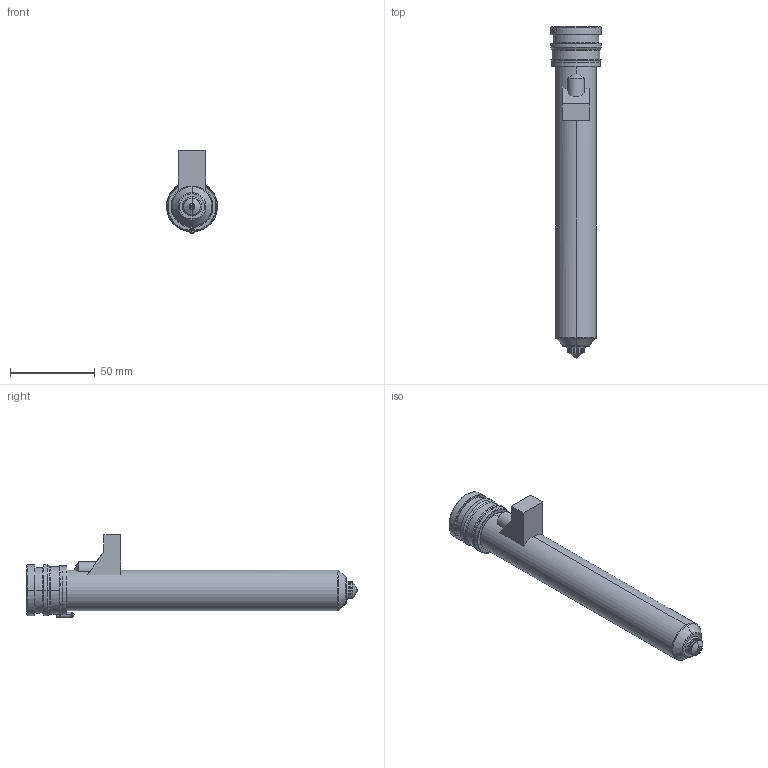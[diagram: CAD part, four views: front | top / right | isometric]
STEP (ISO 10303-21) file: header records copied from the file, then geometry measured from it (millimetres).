
FILE_DESCRIPTION((''),'2;1');
FILE_NAME('MPN-10-29-VSA10-176-M','2026-02-05T13:01:36',('UPTIO'),('Thermoplay S.p.A.'),'CREO PARAMETRIC BY PTC INC, 2023494','CREO PARAMETRIC BY PTC INC, 2023494','');
FILE_SCHEMA(('CONFIG_CONTROL_DESIGN','SHAPE_APPEARANCE_LAYERS_GROUPS'));
Length unit declared in the file: millimetre
Products named in the file (1): MPN-10-29-VSA10-176-M
Bounding box: 30 x 196 x 49 mm (x, y, z)
Volume: 61025.5 mm3; surface area: 62756.4 mm2
Topology: 3 solids, 5 shells, 546 faces, 1379 edges, 839 vertices
Faces by surface type: cylinder 181, plane 145, bspline 71, torus 69, cone 68, sphere 8, extrusion 4
Entity records: 28648 total; most frequent: CARTESIAN_POINT 12784, ORIENTED_EDGE 2744, DIRECTION 2618, EDGE_CURVE 1372, AXIS2_PLACEMENT_3D 1038, VERTEX_POINT 839, EDGE_LOOP 575, CIRCLE 566
